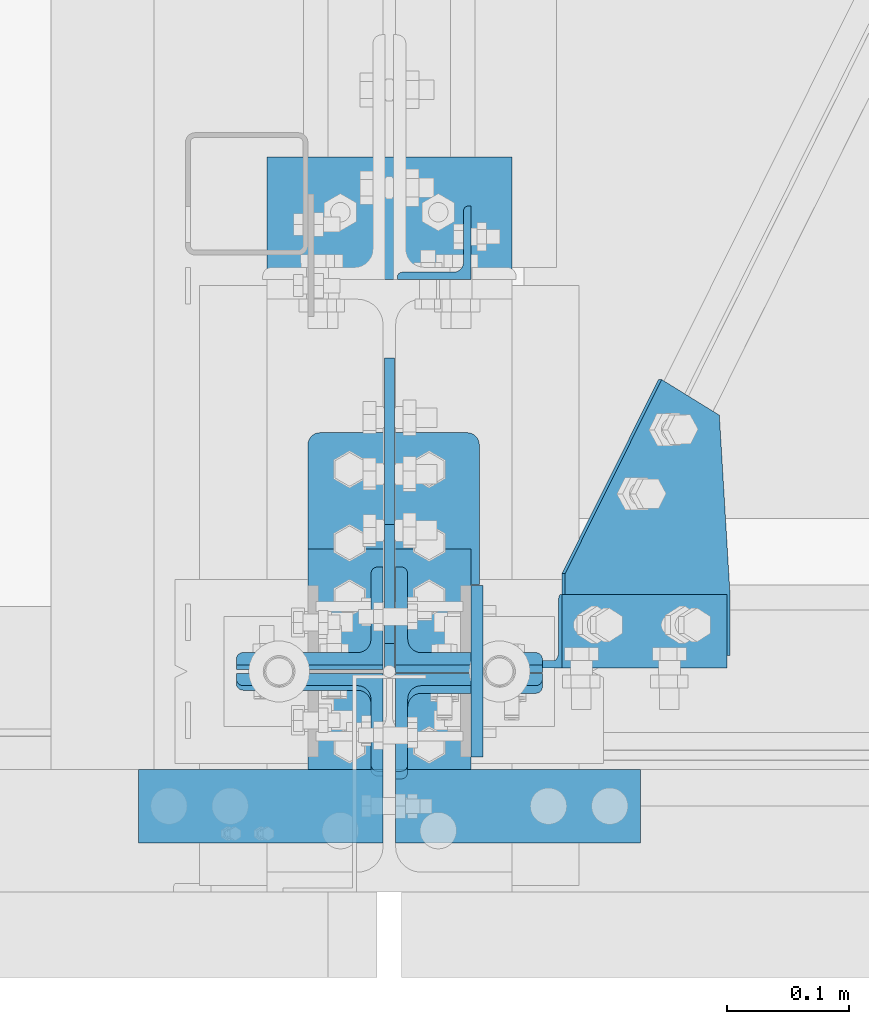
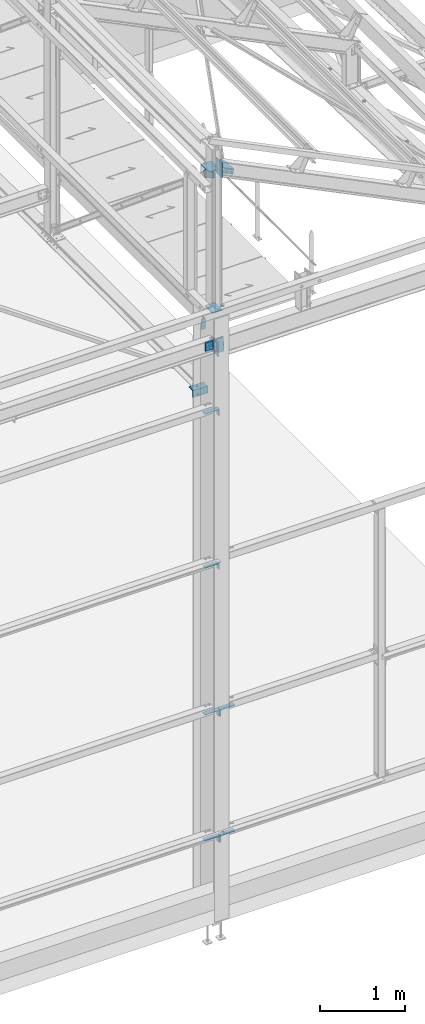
# One storey, part 102 of 362: 13 beams, 5 members, 16 elements without a shape of their own.
"""IFC2X3 building model written with IfcOpenShell, lengths in millimetres."""

from ifc_helpers import new_model, si_unit, frame, frame_2d, origin_with_axes, origin_2d_with_axis, place, context, subcontext, project, spatial, polyline, circle_curve, parameter, trimmed, segment, composite_curve, rectangle, l_section, outline, extrude, clip, halfspace, material, type_object, element, aggregate, save


model = new_model("IFC2X3")

# Units and contexts
model_context = context("Model", 3, precision=1e-05, world=origin_with_axes())
body_context = subcontext(model_context, "Body", "Model", "MODEL_VIEW")
ifc_project = project(units=[si_unit("LENGTHUNIT", "METRE", prefix="MILLI"), si_unit("AREAUNIT", "SQUARE_METRE"), si_unit("VOLUMEUNIT", "CUBIC_METRE"), si_unit("MASSUNIT", "GRAM", prefix="KILO"), si_unit("TIMEUNIT", "SECOND"), si_unit("PLANEANGLEUNIT", "RADIAN"), si_unit("SOLIDANGLEUNIT", "STERADIAN"), si_unit("THERMODYNAMICTEMPERATUREUNIT", "DEGREE_CELSIUS"), si_unit("LUMINOUSINTENSITYUNIT", "LUMEN")], contexts=[model_context])

# Site, building, storey
site_placement = place(None, origin_with_axes())
site = spatial("IfcSite", under=ifc_project, at=site_placement, Name="Undefined", CompositionType="ELEMENT")
building_placement = place(site_placement, origin_with_axes())
building = spatial("IfcBuilding", under=site, at=building_placement, Name="Undefined", CompositionType="ELEMENT")
storey_placement = place(building_placement, origin_with_axes())
storey = spatial("IfcBuildingStorey", under=building, at=storey_placement, Name="Undefined", CompositionType="ELEMENT", Elevation=0.0)

# Assembly, beam
assembly_1_placement = place(storey_placement, origin_with_axes())
assembly_1 = element("IfcElementAssembly", 1, at=assembly_1_placement, inside=storey, AssemblyPlace="NOTDEFINED", PredefinedType="NOTDEFINED")
ifc_material = material(Name="Undefined/S235-E24")
beam_type_1 = type_object("IfcBeamType", Name="L60*6", PredefinedType="NOTDEFINED")
beam_1_placement = place(assembly_1_placement, frame((34316.5000548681, 350.0, 8100.0), z_axis=(-1.0, 0.0, 0.0), x_axis=(0.0, 0.0, -1.0)))
beam_1 = element("IfcBeam", 2, at=beam_1_placement, type_object=beam_type_1, material=ifc_material, Name="ATTACHE", ObjectType="L60*6", context=body_context, shape_type="SweptSolid", body=[
    extrude(l_section(Depth=60.0, Width=60.0, Thickness=6.0, FilletRadius=8.0, EdgeRadius=4.0, at=origin_2d_with_axis()), frame((150.0, 0.0, 0.0), z_axis=(-1.0, 0.0, 0.0), x_axis=(0.0, -1.0, 0.0)), (0.0, 0.0, 1.0), 150.0),
])
aggregate(assembly_1, [beam_1])

# Assembly, member
assembly_2_placement = place(storey_placement, origin_with_axes())
assembly_2 = element("IfcElementAssembly", 3, at=assembly_2_placement, inside=storey, AssemblyPlace="NOTDEFINED", PredefinedType="NOTDEFINED")
member_type_1 = type_object("IfcMemberType", Name="L60*6", PredefinedType="NOTDEFINED")
member_1_placement = place(assembly_2_placement, frame((34542.3138840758, 33.0002237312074, 10309.8965662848), z_axis=(0.0, 1.0, 0.0), x_axis=(-0.897398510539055, -1.29999898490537e-08, 0.441220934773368)))
member_1 = element("IfcMember", 4, at=member_1_placement, type_object=member_type_1, material=ifc_material, Name="ATTACHE", ObjectType="L60*6", context=body_context, shape_type="SweptSolid", body=[
    extrude(l_section(Depth=60.0, Width=60.0, Thickness=6.0, FilletRadius=8.0, EdgeRadius=4.0, at=origin_2d_with_axis()), frame((150.0, 0.0, 0.0), z_axis=(-1.0, 0.0, 0.0), x_axis=(0.0, -1.0, 0.0)), (0.0, 0.0, 1.0), 150.0),
])
aggregate(assembly_2, [member_1])

# Assembly, beam
assembly_3_placement = place(storey_placement, origin_with_axes())
assembly_3 = element("IfcElementAssembly", 5, at=assembly_3_placement, inside=storey, Name="MONTANT", AssemblyPlace="NOTDEFINED", PredefinedType="NOTDEFINED")
beam_type_2 = type_object("IfcBeamType", Name="PL10*133", PredefinedType="NOTDEFINED")
beam_2_placement = place(assembly_3_placement, frame((34280.0, 99.9999999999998, 8455.0), z_axis=(1.0, 0.0, 0.0), x_axis=(0.0, -1.0, 0.0)))
beam_2 = element("IfcBeam", 6, at=beam_2_placement, type_object=beam_type_2, material=ifc_material, Name="PLATINE", ObjectType="PL10*133", context=body_context, shape_type="Clipping", body=[
    clip(extrude(rectangle(XDim=10.0, YDim=133.0, at=origin_2d_with_axis()), frame((200.0, 0.0, 0.0), z_axis=(-1.0, 0.0, 0.0), x_axis=(0.0, -1.0, 0.0)), (0.0, 0.0, 1.0), 200.0), halfspace(frame((180.0, -5.0, -66.5), z_axis=(1.0, 0.0, 0.0), x_axis=(0.0, 0.0, 1.0)), False)),
])

assembly_4_placement = place(storey_placement, origin_with_axes())
assembly_4 = element("IfcElementAssembly", 7, at=assembly_4_placement, inside=storey, AssemblyPlace="NOTDEFINED", PredefinedType="NOTDEFINED")
beam_type_3 = type_object("IfcBeamType", Name="L200*100*10", PredefinedType="NOTDEFINED")
beam_3_placement = place(assembly_4_placement, frame((34175.0000025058, -80.000006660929, 7050.000034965), z_axis=(-1.0, 0.0, 0.0), x_axis=(0.0, -1.0, 0.0)))
beam_3 = element("IfcBeam", 8, at=beam_3_placement, type_object=beam_type_3, material=ifc_material, Name="ATTACHE", ObjectType="L200*100*10", context=body_context, shape_type="SweptSolid", body=[
    extrude(l_section(Depth=200.0, Width=100.0, Thickness=10.0, FilletRadius=15.0, EdgeRadius=7.5, at=origin_2d_with_axis()), frame((60.0, 0.0, 0.0), z_axis=(-1.0, 0.0, 0.0), x_axis=(0.0, -1.0, 0.0)), (0.0, 0.0, 1.0), 60.0),
])
aggregate(assembly_4, [beam_3])

assembly_5_placement = place(storey_placement, origin_with_axes())
assembly_5 = element("IfcElementAssembly", 9, at=assembly_5_placement, inside=storey, AssemblyPlace="NOTDEFINED", PredefinedType="NOTDEFINED")
beam_4_placement = place(assembly_5_placement, frame((34175.0000032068, -80.000006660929, 4850.00003496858), z_axis=(-1.0, 0.0, 0.0), x_axis=(0.0, -1.0, 0.0)))
beam_4 = element("IfcBeam", 10, at=beam_4_placement, type_object=beam_type_3, material=ifc_material, Name="ATTACHE", ObjectType="L200*100*10", context=body_context, shape_type="SweptSolid", body=[
    extrude(l_section(Depth=200.0, Width=100.0, Thickness=10.0, FilletRadius=15.0, EdgeRadius=7.5, at=origin_2d_with_axis()), frame((60.0, 0.0, 0.0), z_axis=(-1.0, 0.0, 0.0), x_axis=(0.0, -1.0, 0.0)), (0.0, 0.0, 1.0), 60.0),
])
aggregate(assembly_5, [beam_4])

assembly_6_placement = place(storey_placement, origin_with_axes())
assembly_6 = element("IfcElementAssembly", 11, at=assembly_6_placement, inside=storey, AssemblyPlace="NOTDEFINED", PredefinedType="NOTDEFINED")
beam_5_placement = place(assembly_6_placement, frame((34175.0000025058, -80.000006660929, 2750.000034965), z_axis=(-1.0, 0.0, 0.0), x_axis=(0.0, -1.0, 0.0)))
beam_5 = element("IfcBeam", 12, at=beam_5_placement, type_object=beam_type_3, material=ifc_material, Name="ATTACHE", ObjectType="L200*100*10", context=body_context, shape_type="SweptSolid", body=[
    extrude(l_section(Depth=200.0, Width=100.0, Thickness=10.0, FilletRadius=15.0, EdgeRadius=7.5, at=origin_2d_with_axis()), frame((60.0, 0.0, 0.0), z_axis=(-1.0, 0.0, 0.0), x_axis=(0.0, -1.0, 0.0)), (0.0, 0.0, 1.0), 60.0),
])
aggregate(assembly_6, [beam_5])

assembly_7_placement = place(storey_placement, origin_with_axes())
assembly_7 = element("IfcElementAssembly", 13, at=assembly_7_placement, inside=storey, AssemblyPlace="NOTDEFINED", PredefinedType="NOTDEFINED")
beam_6_placement = place(assembly_7_placement, frame((34385.0000023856, -140.000007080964, 2750.000034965), z_axis=(1.0, 0.0, 0.0), x_axis=(0.0, 1.0, 0.0)))
beam_6 = element("IfcBeam", 14, at=beam_6_placement, type_object=beam_type_3, material=ifc_material, Name="ATTACHE", ObjectType="L200*100*10", context=body_context, shape_type="SweptSolid", body=[
    extrude(l_section(Depth=200.0, Width=100.0, Thickness=10.0, FilletRadius=15.0, EdgeRadius=7.5, at=origin_2d_with_axis()), frame((60.0, 0.0, 0.0), z_axis=(-1.0, 0.0, 0.0), x_axis=(0.0, -1.0, 0.0)), (0.0, 0.0, 1.0), 60.0),
])
aggregate(assembly_7, [beam_6])

assembly_8_placement = place(storey_placement, origin_with_axes())
assembly_8 = element("IfcElementAssembly", 15, at=assembly_8_placement, inside=storey, AssemblyPlace="NOTDEFINED", PredefinedType="NOTDEFINED")
beam_7_placement = place(assembly_8_placement, frame((34175.0000032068, -80.000006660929, 950.000034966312), z_axis=(-1.0, 0.0, 0.0), x_axis=(0.0, -1.0, 0.0)))
beam_7 = element("IfcBeam", 16, at=beam_7_placement, type_object=beam_type_3, material=ifc_material, Name="ATTACHE", ObjectType="L200*100*10", context=body_context, shape_type="SweptSolid", body=[
    extrude(l_section(Depth=200.0, Width=100.0, Thickness=10.0, FilletRadius=15.0, EdgeRadius=7.5, at=origin_2d_with_axis()), frame((60.0, 0.0, 0.0), z_axis=(-1.0, 0.0, 0.0), x_axis=(0.0, -1.0, 0.0)), (0.0, 0.0, 1.0), 60.0),
])
aggregate(assembly_8, [beam_7])

assembly_9_placement = place(storey_placement, origin_with_axes())
assembly_9 = element("IfcElementAssembly", 17, at=assembly_9_placement, inside=storey, AssemblyPlace="NOTDEFINED", PredefinedType="NOTDEFINED")
beam_8_placement = place(assembly_9_placement, frame((34385.0000030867, -140.000007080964, 950.000034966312), z_axis=(1.0, 0.0, 0.0), x_axis=(0.0, 1.0, 0.0)))
beam_8 = element("IfcBeam", 18, at=beam_8_placement, type_object=beam_type_3, material=ifc_material, Name="ATTACHE", ObjectType="L200*100*10", context=body_context, shape_type="SweptSolid", body=[
    extrude(l_section(Depth=200.0, Width=100.0, Thickness=10.0, FilletRadius=15.0, EdgeRadius=7.5, at=origin_2d_with_axis()), frame((60.0, 0.0, 0.0), z_axis=(-1.0, 0.0, 0.0), x_axis=(0.0, -1.0, 0.0)), (0.0, 0.0, 1.0), 60.0),
])
aggregate(assembly_9, [beam_8])

assembly_10_placement = place(storey_placement, origin_with_axes())
assembly_10 = element("IfcElementAssembly", 19, at=assembly_10_placement, inside=storey, Name="TRAVERSE SHED", AssemblyPlace="NOTDEFINED", PredefinedType="NOTDEFINED")
beam_type_4 = type_object("IfcBeamType", Name="PL10*140", PredefinedType="NOTDEFINED")
beam_9_placement = place(assembly_10_placement, frame((34351.5, 0.0, 10548.0682550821), z_axis=(0.0, -1.0, 0.0), x_axis=(0.0, 0.0, -1.0)))
beam_9 = element("IfcBeam", 20, at=beam_9_placement, type_object=beam_type_4, material=ifc_material, Name="PLATINE", ObjectType="PL10*140", context=body_context, shape_type="SweptSolid", body=[
    extrude(rectangle(XDim=10.0, YDim=140.0, at=origin_2d_with_axis()), frame((213.394604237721, 0.0, 0.0), z_axis=(-1.0, 0.0, 0.0), x_axis=(0.0, -1.0, 0.0)), (0.0, 0.0, 1.0), 213.39),
])
aggregate(assembly_10, [beam_9])

assembly_11_placement = place(storey_placement, origin_with_axes())
assembly_11 = element("IfcElementAssembly", 21, at=assembly_11_placement, inside=storey, AssemblyPlace="NOTDEFINED", PredefinedType="NOTDEFINED")
beam_type_5 = type_object("IfcBeamType", Name="TOLE6*164", PredefinedType="NOTDEFINED")
beam_10_placement = place(assembly_11_placement, frame((34548.1682777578, 209.258937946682, 10343.7911863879), z_axis=(0.44122107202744, 0.0, 0.89739844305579), x_axis=(-0.78486955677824, 0.484835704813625, 0.385893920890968)))
beam_10 = element("IfcBeam", 22, at=beam_10_placement, type_object=beam_type_5, material=ifc_material, Name="GOUSSET", ObjectType="TOLE6*164", context=body_context, shape_type="SweptSolid", body=[
    extrude(outline(polyline([(0.0, 0.0), (60.0, 0.0), (60.000000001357, 181.13842773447), (27.5527534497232, 239.6707305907), (-103.638031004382, 166.945343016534), (-79.3962478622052, 123.215103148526), (0.0, 0.0)])), frame((0.0, 0.0, -3.0), z_axis=(0.0, 0.0, 1.0), x_axis=(1.0, 0.0, 0.0)), (0.0, 0.0, 1.0), 6.0),
])
aggregate(assembly_11, [beam_10])

# Assembly, member
assembly_12_placement = place(storey_placement, origin_with_axes())
assembly_12 = element("IfcElementAssembly", 23, at=assembly_12_placement, inside=storey, AssemblyPlace="NOTDEFINED", PredefinedType="NOTDEFINED")
member_type_2 = type_object("IfcMemberType", Name="L120*80*10", PredefinedType="NOTDEFINED")
member_2_placement = place(assembly_12_placement, frame((34344.9994948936, 39.0795813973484, 7808.65680402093), z_axis=(1.0, 0.0, 0.0), x_axis=(7.58071938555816e-11, 0.0314107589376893, 0.999506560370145)))
member_2 = element("IfcMember", 24, at=member_2_placement, type_object=member_type_2, material=ifc_material, Name="ATTACHE", ObjectType="L120*80*10", context=body_context, shape_type="SweptSolid", body=[
    extrude(l_section(Depth=120.0, Width=80.0, Thickness=10.0, FilletRadius=11.0, EdgeRadius=5.5, at=origin_2d_with_axis()), frame((200.0, 0.0, 0.0), z_axis=(-1.0, 0.0, 0.0), x_axis=(0.0, -1.0, 0.0)), (0.0, 0.0, 1.0), 200.0),
])
aggregate(assembly_12, [member_2])

assembly_13_placement = place(storey_placement, origin_with_axes())
assembly_13 = element("IfcElementAssembly", 25, at=assembly_13_placement, inside=storey, AssemblyPlace="NOTDEFINED", PredefinedType="NOTDEFINED")
member_3_placement = place(assembly_13_placement, frame((34344.9994948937, -41.5961426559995, 8011.2909028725), z_axis=(1.0, 0.0, 0.0), x_axis=(-1.05403257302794e-09, -0.0314112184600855, -0.999506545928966)))
member_3 = element("IfcMember", 26, at=member_3_placement, type_object=member_type_2, material=ifc_material, Name="ATTACHE", ObjectType="L120*80*10", context=body_context, shape_type="SweptSolid", body=[
    extrude(l_section(Depth=120.0, Width=80.0, Thickness=10.0, FilletRadius=11.0, EdgeRadius=5.5, at=origin_2d_with_axis()), frame((200.0, 0.0, 0.0), z_axis=(-1.0, 0.0, 0.0), x_axis=(0.0, -1.0, 0.0)), (0.0, 0.0, 1.0), 200.0),
])
aggregate(assembly_13, [member_3])

assembly_14_placement = place(storey_placement, origin_with_axes())
assembly_14 = element("IfcElementAssembly", 27, at=assembly_14_placement, inside=storey, AssemblyPlace="NOTDEFINED", PredefinedType="NOTDEFINED")
member_4_placement = place(assembly_14_placement, frame((34214.9978557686, 45.3617889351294, 8008.55810716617), z_axis=(-1.0, 0.0, 0.0), x_axis=(-1.05403257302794e-09, -0.0314112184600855, -0.999506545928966)))
member_4 = element("IfcMember", 28, at=member_4_placement, type_object=member_type_2, material=ifc_material, Name="ATTACHE", ObjectType="L120*80*10", context=body_context, shape_type="SweptSolid", body=[
    extrude(l_section(Depth=120.0, Width=80.0, Thickness=10.0, FilletRadius=11.0, EdgeRadius=5.5, at=origin_2d_with_axis()), frame((120.0, 0.0, 0.0), z_axis=(-1.0, 0.0, 0.0), x_axis=(0.0, -1.0, 0.0)), (0.0, 0.0, 1.0), 120.0),
])
aggregate(assembly_14, [member_4])

assembly_15_placement = place(storey_placement, origin_with_axes())
assembly_15 = element("IfcElementAssembly", 29, at=assembly_15_placement, inside=storey, AssemblyPlace="NOTDEFINED", PredefinedType="NOTDEFINED")
member_5_placement = place(assembly_15_placement, frame((34214.9978557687, -45.365488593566, 7891.35012452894), z_axis=(-1.0, 0.0, 0.0), x_axis=(7.58071938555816e-11, 0.0314107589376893, 0.999506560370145)))
member_5 = element("IfcMember", 30, at=member_5_placement, type_object=member_type_2, material=ifc_material, Name="ATTACHE", ObjectType="L120*80*10", context=body_context, shape_type="SweptSolid", body=[
    extrude(l_section(Depth=120.0, Width=80.0, Thickness=10.0, FilletRadius=11.0, EdgeRadius=5.5, at=origin_2d_with_axis()), frame((120.0, 0.0, 0.0), z_axis=(-1.0, 0.0, 0.0), x_axis=(0.0, -1.0, 0.0)), (0.0, 0.0, 1.0), 120.0),
])
aggregate(assembly_15, [member_5])

# Assembly, beam
assembly_16_placement = place(storey_placement, origin_with_axes())
assembly_16 = element("IfcElementAssembly", 31, at=assembly_16_placement, inside=storey, AssemblyPlace="NOTDEFINED", PredefinedType="NOTDEFINED")
beam_type_6 = type_object("IfcBeamType", Name="L100*10", PredefinedType="NOTDEFINED")
beam_11_placement = place(assembly_16_placement, frame((34179.999231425, 369.998029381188, 7067.00000007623), z_axis=(0.0, 0.0, -1.0), x_axis=(0.999999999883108, 1.52899999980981e-05, 0.0)))
beam_11 = element("IfcBeam", 32, at=beam_11_placement, type_object=beam_type_6, material=ifc_material, Name="ATTACHE", ObjectType="L100*10", context=body_context, shape_type="SweptSolid", body=[
    extrude(l_section(Depth=100.0, Width=100.0, Thickness=10.0, FilletRadius=12.0, EdgeRadius=6.0, at=origin_2d_with_axis()), frame((200.0, 0.0, 0.0), z_axis=(-1.0, 0.0, 0.0), x_axis=(0.0, -1.0, 0.0)), (0.0, 0.0, 1.0), 200.0),
])
aggregate(assembly_16, [beam_11])

# Beam
beam_type_7 = type_object("IfcBeamType", Name="TOLE8*213", PredefinedType="NOTDEFINED")
beam_12_placement = place(assembly_3_placement, frame((34280.0, 2.75000000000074, 10413.0), z_axis=(-1.0, 0.0, 0.0), x_axis=(0.0, 1.0, 0.0)))
beam_12 = element("IfcBeam", 33, at=beam_12_placement, type_object=beam_type_7, material=ifc_material, Name="GOUSSET", ObjectType="TOLE8*213", context=body_context, shape_type="SweptSolid", body=[
    extrude(outline(polyline([(1.47401806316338e-08, 20.0000000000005), (19.9999999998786, -3.63797880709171e-12), (117.25, 0.0), (253.170501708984, 151.578247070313), (201.895324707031, 212.985534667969), (0.0, 100.0), (1.47401806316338e-08, 20.0000000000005)])), frame((0.0, 0.0, -4.0), z_axis=(0.0, 0.0, 1.0), x_axis=(1.0, 0.0, 0.0)), (0.0, 0.0, 1.0), 8.0),
])

beam_type_8 = type_object("IfcBeamType", Name="TOLE10*192", PredefinedType="NOTDEFINED")
beam_13_placement = place(assembly_3_placement, frame((34213.5, 195.000000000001, 10418.0), z_axis=(0.0, 0.0, 1.0), x_axis=(0.0, -1.0, 0.0)))
beam_13 = element("IfcBeam", 34, at=beam_13_placement, type_object=beam_type_8, material=ifc_material, Name="PLAT", ObjectType="TOLE10*192", context=body_context, shape_type="SweptSolid", body=[
    extrude(outline(composite_curve([segment(trimmed(circle_curve(frame_2d((10.0, 10.0), x_axis=(-1.0, 0.0)), 10.0), [parameter(0.0)], [parameter(1.5707963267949)], True, "PARAMETER"), True, "CONTINUOUS"), segment(polyline([(9.99999999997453, 6.91215973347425e-11), (124.5, 0.0), (124.5, 9.0), (172.25, 9.0), (192.25, 29.0), (192.25, 104.0), (172.25, 124.0), (124.0, 124.0), (124.0, 140.0), (10.0, 140.0)]), True, "CONTINUOUS"), segment(trimmed(circle_curve(frame_2d((10.0, 130.0), x_axis=(0.0, 1.0)), 10.0), [parameter(0.0)], [parameter(1.5707963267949)], True, "PARAMETER"), True, "CONTINUOUS"), segment(polyline([(0.0, 130.0), (-1.81898940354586e-10, 10.0000000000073)]), True, "CONTINUOUS")], self_intersect=True)), frame((0.0, 0.0, -5.0), z_axis=(0.0, 0.0, 1.0), x_axis=(1.0, 0.0, 0.0)), (0.0, 0.0, 1.0), 10.0),
])

aggregate(assembly_3, [beam_12, beam_2, beam_13])

save(model, "model.ifc")
